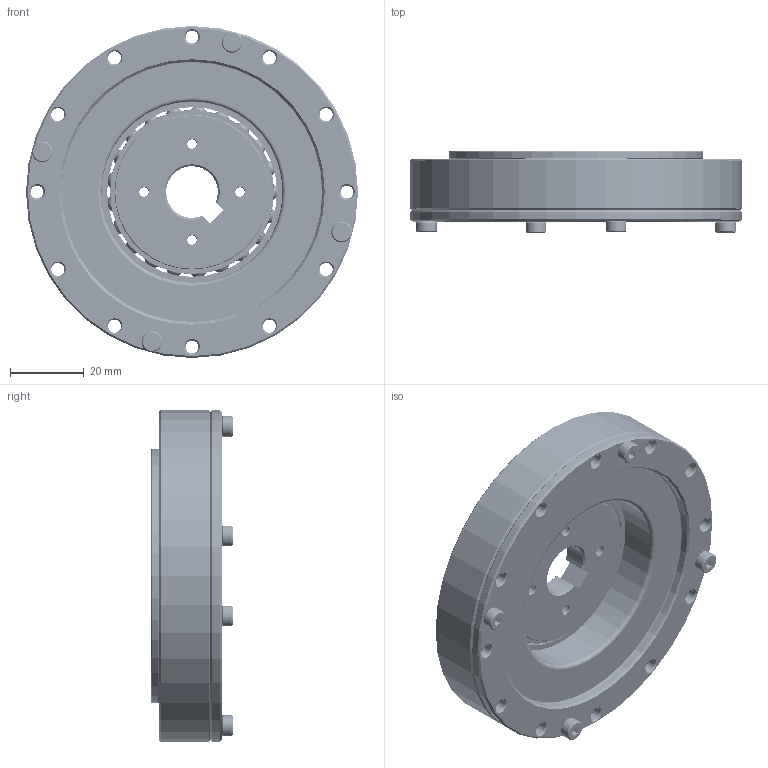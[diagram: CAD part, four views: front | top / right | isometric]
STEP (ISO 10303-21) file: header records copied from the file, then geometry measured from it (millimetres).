
FILE_DESCRIPTION(/* description */ (''),/* implementation_level */ '2;1');
FILE_NAME(/* name */ 'HBD20.stp',/* time_stamp */ '2023-02-20T14:50:03+08:00',/* author */ (''),/* organization */ (''),/* preprocessor_version */ 'ST-DEVELOPER v16',/* originating_system */ 'SIEMENS PLM Software NX 10.0',/* authorisation */ '');
FILE_SCHEMA (('CONFIG_CONTROL_DESIGN'));
Products named in the file (1): HBD20
Bounding box: 90 x 22 x 90 mm (x, y, z)
Volume: 68476.6 mm3; surface area: 67531.5 mm2
Topology: 37 solids, 38 shells, 768 faces, 1980 edges, 1290 vertices
Faces by surface type: plane 258, cone 180, cylinder 173, bspline 85, extrusion 42, sphere 21, torus 9
Full cylindrical faces by diameter (mm): 2.8 x1, 3.5 x42, 4 x1, 5.6 x4, 33.9 x1, 35.56 x1, 35.6 x1, 37 x2, 38 x1, 38.2 x2, 39.7 x1, 42 x1, 44.4 x1, 46 x2, 49.073 x2, 50.8 x1, 51.7 x1, 53.8 x1, 54 x2, 55.5 x1, 56.8 x1, 62 x1, 69 x3, 70.6 x2, 71 x1, 72 x1, 72.6 x1, 76 x1, 78 x5, 78.5 x2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
Entity records: 146145 total; most frequent: CARTESIAN_POINT 130304, ORIENTED_EDGE 3050, DIRECTION 2782, EDGE_CURVE 1525, EDGE_LOOP 1167, VERTEX_POINT 1163, AXIS2_PLACEMENT_3D 1127, FACE_BOUND 780
